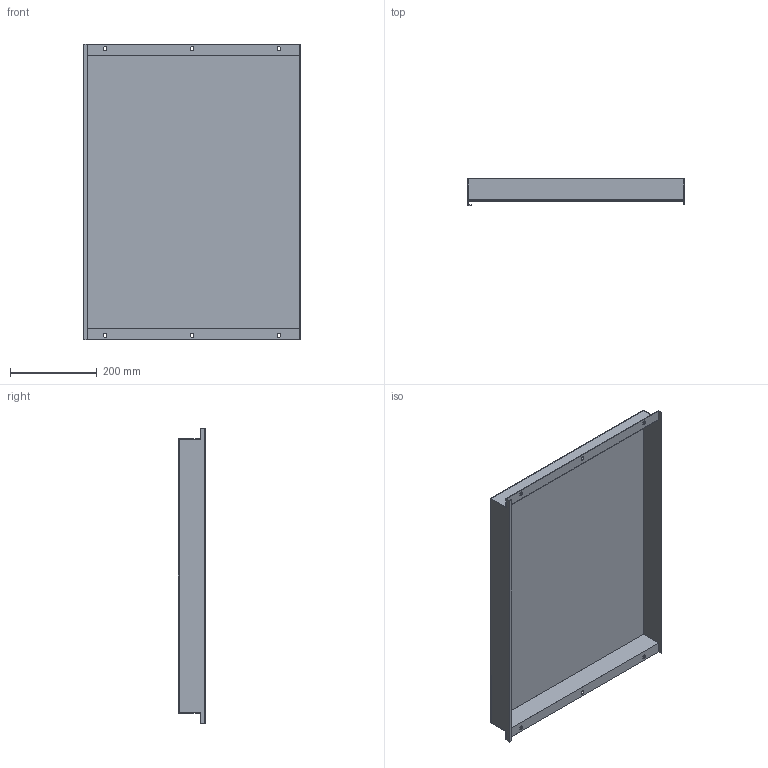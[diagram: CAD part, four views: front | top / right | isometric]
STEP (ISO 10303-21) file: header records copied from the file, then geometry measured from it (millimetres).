
FILE_DESCRIPTION (( 'STEP AP214' ), '1' );
FILE_NAME ('FO-00-PVSU-050-080 Ïëàñòðîí âíóòðåííèé óãëóáëåííûé 500õ800õ50.STEP', '2025-08-26T12:00:06', ( '' ), ( '' ), 'SwSTEP 2.0', 'SolidWorks 2023', '' );
FILE_SCHEMA (( 'AUTOMOTIVE_DESIGN' ));
Length unit declared in the file: millimetre
Products named in the file (1): FO-00-PVSU-050-080 Пластрон внутренний углубленный 500х800х50
Bounding box: 498 x 62.5 x 679 mm (x, y, z)
Volume: 655805.4 mm3; surface area: 940468.6 mm2
Topology: 1 solids, 1 shells, 52 faces, 150 edges, 100 vertices
Faces by surface type: plane 34, cylinder 18
Entity records: 1757 total; most frequent: CARTESIAN_POINT 303, ORIENTED_EDGE 300, DIRECTION 292, EDGE_CURVE 150, VECTOR 114, LINE 114, VERTEX_POINT 100, AXIS2_PLACEMENT_3D 89
